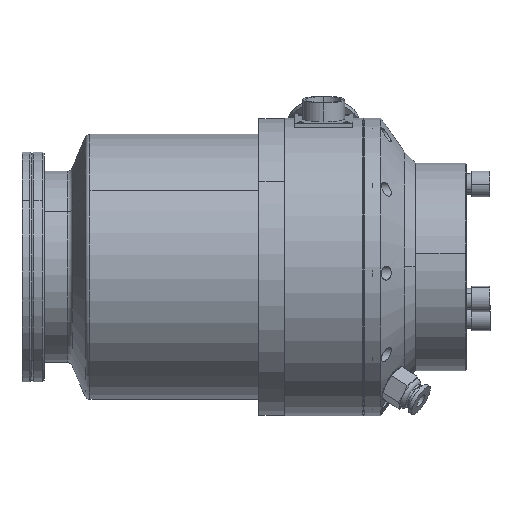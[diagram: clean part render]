
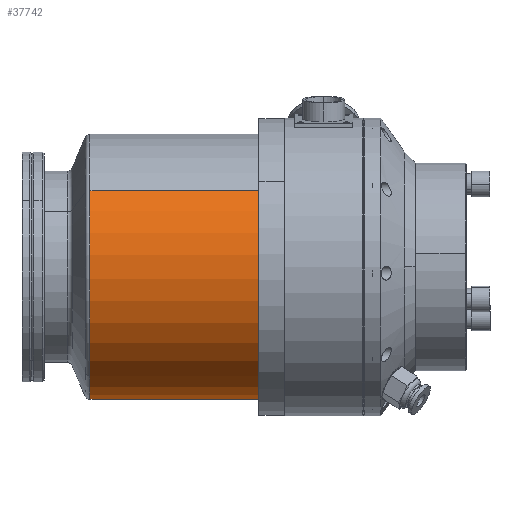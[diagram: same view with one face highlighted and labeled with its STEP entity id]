
A CAD part, left-side view. The second image highlights one B-rep face of the part: STEP entity #37742.
In plain terms, the highlighted cylindrical face has radius 75.5 mm (diameter 151 mm), a partial arc.
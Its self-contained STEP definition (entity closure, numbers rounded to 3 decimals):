
#179 = VERTEX_POINT ( 'NONE', #15293 ) ;
#956 = CARTESIAN_POINT ( 'NONE',  ( 0., 32.857, -75.5 ) ) ;
#1555 = ORIENTED_EDGE ( 'NONE', *, *, #34075, .T. ) ;
#1930 = ORIENTED_EDGE ( 'NONE', *, *, #34141, .F. ) ;
#2261 = ORIENTED_EDGE ( 'NONE', *, *, #33998, .T. ) ;
#10809 = DIRECTION ( 'NONE',  ( 0., 0., 1. ) ) ;
#10945 = DIRECTION ( 'NONE',  ( 0., 1., 0. ) ) ;
#10980 = CARTESIAN_POINT ( 'NONE',  ( 0., -63.033, 0. ) ) ;
#13616 = DIRECTION ( 'NONE',  ( 0., 1., 0. ) ) ;
#13650 = CARTESIAN_POINT ( 'NONE',  ( 0., 82.752, -75.5 ) ) ;
#14280 = DIRECTION ( 'NONE',  ( 0., 0., 1. ) ) ;
#14453 = CARTESIAN_POINT ( 'NONE',  ( 0., 82.752, 0. ) ) ;
#15293 = CARTESIAN_POINT ( 'NONE',  ( 0., 32.857, 75.5 ) ) ;
#15441 = DIRECTION ( 'NONE',  ( 0., 1., 0. ) ) ;
#21360 = VERTEX_POINT ( 'NONE', #35064 ) ;
#25142 = AXIS2_PLACEMENT_3D ( 'NONE', #14453, #15441, #14280 ) ;
#25256 = VECTOR ( 'NONE', #35337, 1000. ) ;
#25305 = LINE ( 'NONE', #35440, #25256 ) ;
#25390 = CIRCLE ( 'NONE', #30634, 75.5 ) ;
#25972 = CIRCLE ( 'NONE', #30846, 75.5 ) ;
#26405 = VERTEX_POINT ( 'NONE', #956 ) ;
#27481 = CARTESIAN_POINT ( 'NONE',  ( 0., -63.033, -75.5 ) ) ;
#28143 = AXIS2_PLACEMENT_3D ( 'NONE', #10980, #10945, #10809 ) ;
#30400 = VERTEX_POINT ( 'NONE', #48022 ) ;
#30634 = AXIS2_PLACEMENT_3D ( 'NONE', #35968, #35954, #35918 ) ;
#30846 = AXIS2_PLACEMENT_3D ( 'NONE', #37055, #37002, #36990 ) ;
#33998 = EDGE_CURVE ( 'NONE', #26405, #21360, #25972, .T. ) ;
#34075 = EDGE_CURVE ( 'NONE', #21360, #179, #25390, .T. ) ;
#34141 = EDGE_CURVE ( 'NONE', #30400, #179, #25305, .T. ) ;
#34712 = VECTOR ( 'NONE', #13616, 1000. ) ;
#35064 = CARTESIAN_POINT ( 'NONE',  ( 75.5, 32.857, 0. ) ) ;
#35187 = CIRCLE ( 'NONE', #28143, 75.5 ) ;
#35337 = DIRECTION ( 'NONE',  ( 0., 1., 0. ) ) ;
#35381 = EDGE_CURVE ( 'NONE', #45277, #26405, #42835, .T. ) ;
#35440 = CARTESIAN_POINT ( 'NONE',  ( 0., 82.752, 75.5 ) ) ;
#35460 = EDGE_CURVE ( 'NONE', #30400, #45277, #35187, .T. ) ;
#35918 = DIRECTION ( 'NONE',  ( 0., 0., 1. ) ) ;
#35954 = DIRECTION ( 'NONE',  ( 0., -1., 0. ) ) ;
#35968 = CARTESIAN_POINT ( 'NONE',  ( 0., 32.857, 0. ) ) ;
#36990 = DIRECTION ( 'NONE',  ( 0., 0., 1. ) ) ;
#37002 = DIRECTION ( 'NONE',  ( 0., -1., 0. ) ) ;
#37055 = CARTESIAN_POINT ( 'NONE',  ( 0., 32.857, 0. ) ) ;
#37742 = ADVANCED_FACE ( 'NONE', ( #41047 ), #42919, .T. ) ;
#39149 = ORIENTED_EDGE ( 'NONE', *, *, #35381, .T. ) ;
#40090 = ORIENTED_EDGE ( 'NONE', *, *, #35460, .T. ) ;
#41047 = FACE_OUTER_BOUND ( 'NONE', #41055, .T. ) ;
#41055 = EDGE_LOOP ( 'NONE', ( #40090, #39149, #2261, #1555, #1930 ) ) ;
#42835 = LINE ( 'NONE', #13650, #34712 ) ;
#42919 = CYLINDRICAL_SURFACE ( 'NONE', #25142, 75.5 ) ;
#45277 = VERTEX_POINT ( 'NONE', #27481 ) ;
#48022 = CARTESIAN_POINT ( 'NONE',  ( 0., -63.033, 75.5 ) ) ;
